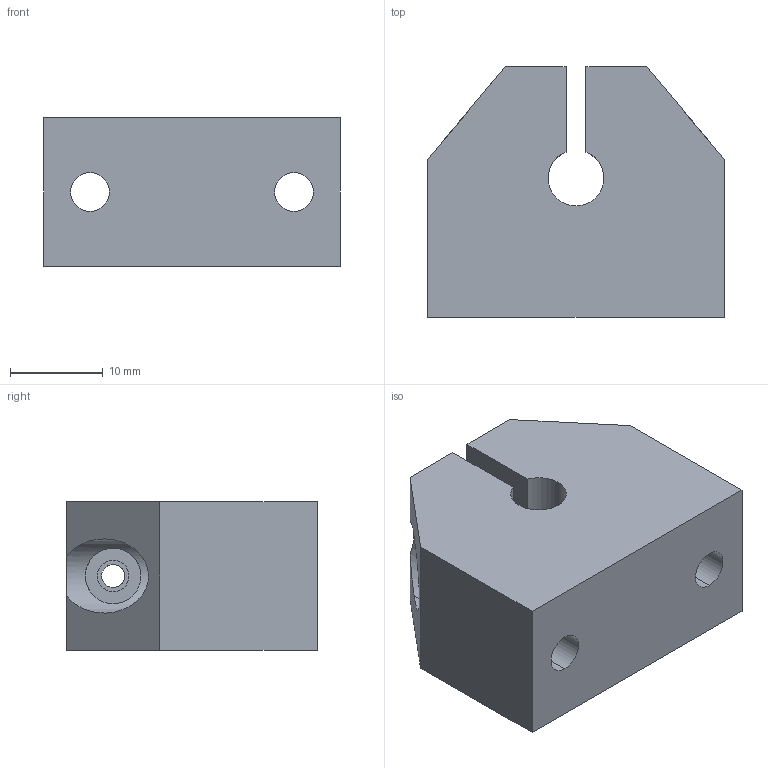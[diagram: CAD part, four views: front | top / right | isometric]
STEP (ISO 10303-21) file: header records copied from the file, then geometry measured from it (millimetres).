
FILE_DESCRIPTION (( 'STEP AP214' ), '1' );
FILE_NAME ('KWBC58-06.step', '2020-03-04T13:10:59', ( '' ), ( '' ), 'SwSTEP 2.0', 'SolidWorks 2019', '' );
FILE_SCHEMA (( 'AUTOMOTIVE_DESIGN' ));
Length unit declared in the file: millimetre
Products named in the file (1): KWBC58-06
Bounding box: 32 x 27 x 16 mm (x, y, z)
Volume: 10169 mm3; surface area: 4571.2 mm2
Topology: 1 solids, 1 shells, 31 faces, 84 edges, 56 vertices
Faces by surface type: cylinder 17, plane 14
Entity records: 1200 total; most frequent: CARTESIAN_POINT 296, ORIENTED_EDGE 168, DIRECTION 166, EDGE_CURVE 84, AXIS2_PLACEMENT_3D 60, VERTEX_POINT 56, LINE 46, VECTOR 46
